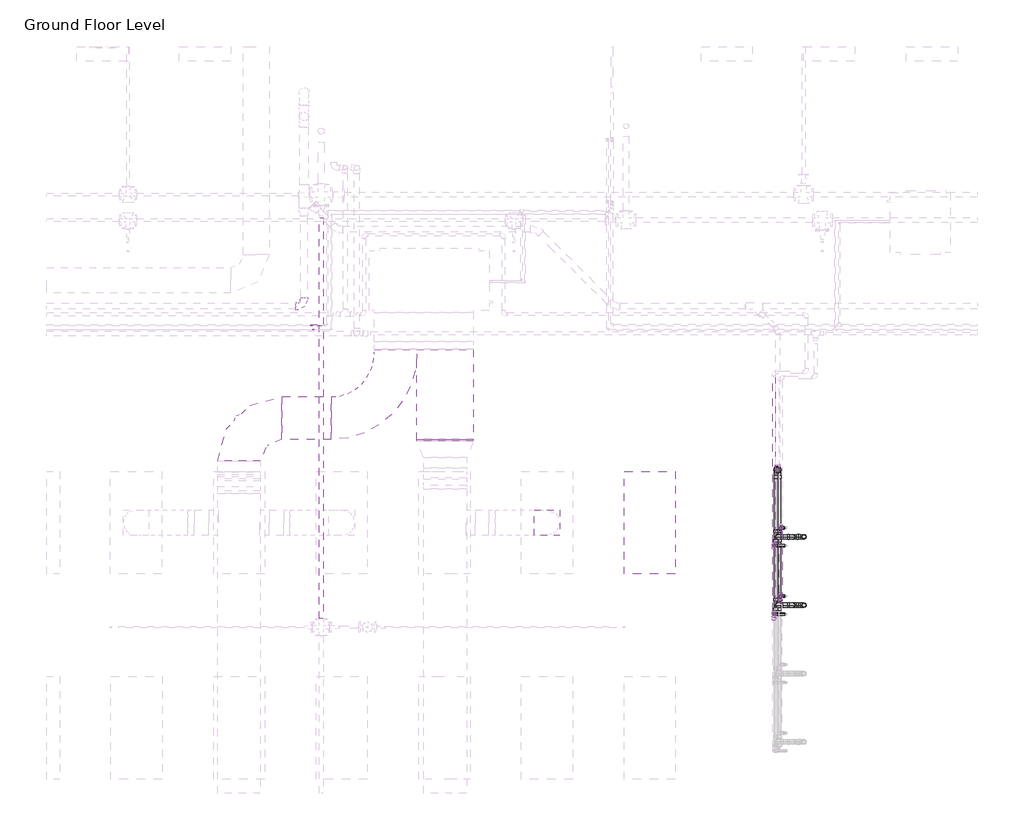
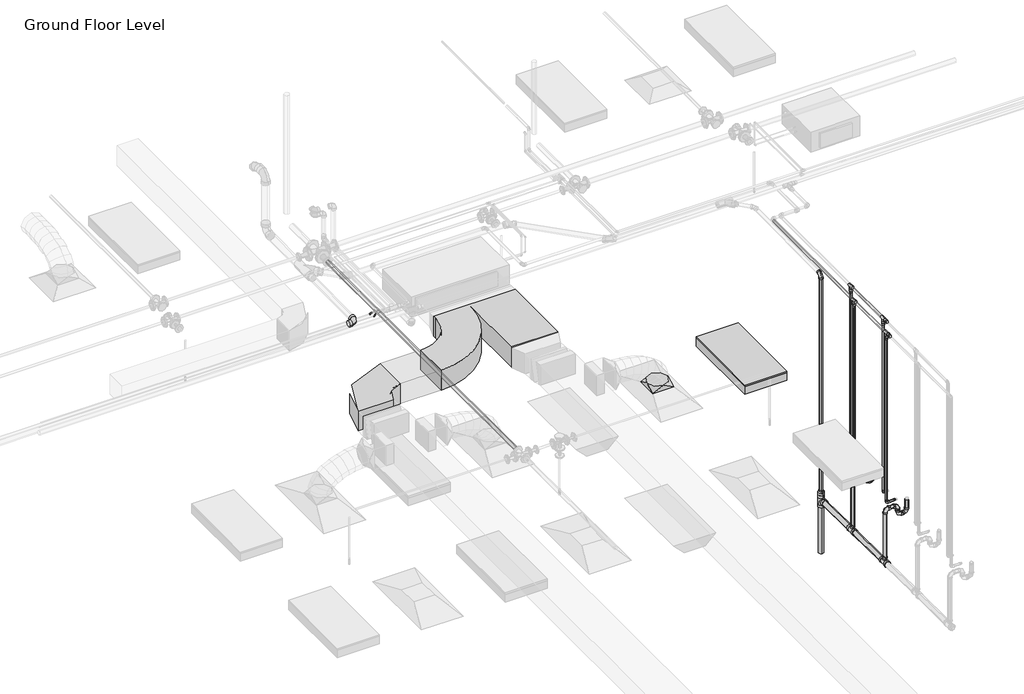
# One storey, part 51 of 73: 32 pipe fittings, 30 pipe segments, 3 duct fittings, 2 duct segments, 1 light fixture.
"""IFC4 building model written with IfcOpenShell, lengths in millimetres."""

from ifc_helpers import new_model, si_unit, point, frame, frame_2d, origin, place, context, project, spatial, polyline, circle_curve, trimmed, segment, composite_curve, outline, extrude, transform, mapped, element, save
from components import m_rectangular_elbow_radius_1_w_abe20169, m_rectangular_wye_smooth_radius_standard_737174da, m_rectangular_to_round_transition_angle_45_degree_641efff0, m_troffer_light_parabolic_rectangular1_0600x1200mm_4_lamp_86473d4a, m_bend_pvc_sch_40_dwv_standard_1e7bdcc1, m_bend_pvc_sch_40_dwv_standard_738aab8b, m_bend_pvc_sch_40_dwv_standard_33e831c1, m_elbow_generic_standard_2a704253, m_elbow_generic_standard_65e6739a, m_reducer_pvc_sch_40_dwv_standard_d6f2da47, m_tee_reducing_sanitary_pvc_sch_40_dwv_standard_21d2848c, m_tee_reducing_sanitary_pvc_sch_40_dwv_standard_b574f8c1, standard_b266ab3f, standard_72b35c3b, standard_e954f56a, standard_e5aa6446

model = new_model("IFC4")

# Units and contexts
model_context = context("Model", 3, world=origin())
ifc_project = project(units=[si_unit("LENGTHUNIT", "METRE", prefix="MILLI")], contexts=[model_context])

# Site, building, storey
site = spatial("IfcSite", under=ifc_project)
building = spatial("IfcBuilding", under=site)
storey = spatial("IfcBuildingStorey", under=building, Name="Ground Floor Level", Elevation=900.0)

# Duct fittings
placement = place(None, origin())
m_rectangular_elbow_radius_1_w_shape = m_rectangular_elbow_radius_1_w_abe20169(model_context)
element("IfcDuctFitting", 1, ObjectType="M_Rectangular Elbow - Radius : 1 W", at=placement, inside=storey, context=model_context, shape_type="MappedRepresentation", body=[
    mapped(m_rectangular_elbow_radius_1_w_shape, transform((-6939.6912607, 12459.4153535, 4107.1399598), x_axis=(-0.9999999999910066, 0.0, 4.2410714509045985e-06), y_axis=(0.0, -1.0, 0.0), z_axis=(4.2410714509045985e-06, 0.0, 0.9999999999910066))),
])
m_rectangular_wye_smooth_radius_standard_shape = m_rectangular_wye_smooth_radius_standard_737174da(model_context)
element("IfcDuctFitting", 2, ObjectType="M_Rectangular Wye - Smooth Radius : Standard", at=placement, inside=storey, context=model_context, shape_type="MappedRepresentation", body=[
    mapped(m_rectangular_wye_smooth_radius_standard_shape, transform((-4653.6910789, 12459.4153535, 4107.1353795), x_axis=(0.0, -0.9999999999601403, -8.928571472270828e-06), y_axis=(1.0, 0.0, 0.0), z_axis=(0.0, -8.928571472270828e-06, 0.9999999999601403))),
])
m_rectangular_to_round_transition_angle_45_degree_shape = m_rectangular_to_round_transition_angle_45_degree_641efff0(model_context)
element("IfcDuctFitting", 3, ObjectType="M_Rectangular to Round Transition - Angle : 45 Degree", at=placement, inside=storey, context=model_context, shape_type="MappedRepresentation", body=[
    mapped(m_rectangular_to_round_transition_angle_45_degree_shape, transform((-3337.2327605, 11235.2153534, 3751.6), x_axis=(0.0, 0.0, 1.0), y_axis=(-1.0, 0.0, 0.0), z_axis=(0.0, -1.0, 0.0))),
])

# Duct segments
element("IfcDuctSegment", 4, ObjectType="Radius Elbows / Taps", at=placement, inside=storey, context=model_context, shape_type="SweptSolid", body=[
    extrude(outline(polyline([(-4859.6910789, 12209.4153535), (-4197.6910789, 12209.4153535), (-4197.6910789, 12192.414605), (-4859.6910789, 12192.414605), (-4859.6910789, 12209.4153535)])), frame((0.0, 0.0, 3957.1331473), z_axis=(0.0, 0.0, 1.0), x_axis=(1.0, 0.0, 0.0)), (0.0, 0.0, 1.0), 300.0),
])
element("IfcDuctSegment", 5, ObjectType="Radius Elbows / Taps", at=placement, inside=storey, context=model_context, shape_type="SweptSolid", body=[
    extrude(outline(polyline([(-5859.6910789, 12709.4153535), (-5859.6910789, 12209.4153535), (-6439.6912607, 12209.4153535), (-6439.6912607, 12709.4153535), (-5859.6910789, 12709.4153535)])), frame((0.0, 0.0, 3957.1353795), z_axis=(0.0, 0.0, 1.0), x_axis=(1.0, 0.0, 0.0)), (0.0, 0.0, 1.0), 300.0),
])

# Light fixture
m_troffer_light_parabolic_rectangular1_0600x1200mm_4_lamp_shape = m_troffer_light_parabolic_rectangular1_0600x1200mm_4_lamp_86473d4a(model_context)
element("IfcLightFixture", 6, ObjectType="M_Troffer Light - Parabolic Rectangular1 : 0600x1200mm(4 Lamp) - 277V 2", at=placement, inside=storey, context=model_context, shape_type="MappedRepresentation", body=[
    mapped(m_troffer_light_parabolic_rectangular1_0600x1200mm_4_lamp_shape, transform((-2196.6986926, 11253.918855, 3650.0), x_axis=(0.0, 1.0, 0.0), y_axis=(-1.0, 0.0, 0.0), z_axis=(0.0, 0.0, 1.0))),
])

# Pipe fittings
m_bend_pvc_sch_40_dwv_standard_shape = m_bend_pvc_sch_40_dwv_standard_1e7bdcc1(model_context)
element("IfcPipeFitting", 7, ObjectType="M_Bend - PVC - Sch 40 - DWV : Standard", at=placement, inside=storey, context=model_context, shape_type="MappedRepresentation", body=[
    mapped(m_bend_pvc_sch_40_dwv_standard_shape, transform((-642.2357232, 11855.5503966, 4093.773994), x_axis=(0.0, 0.0, 1.0), y_axis=(0.0, 1.0, 0.0), z_axis=(-1.0, 0.0, 0.0))),
])
m_bend_pvc_sch_40_dwv_standard_2_shape = m_bend_pvc_sch_40_dwv_standard_738aab8b(model_context)
element("IfcPipeFitting", 8, ObjectType="M_Bend - PVC - Sch 40 - DWV : Standard", at=placement, inside=storey, context=model_context, shape_type="MappedRepresentation", body=[
    mapped(m_bend_pvc_sch_40_dwv_standard_2_shape, transform((-463.6645494, 10271.1979139, 1370.0), x_axis=(-1.0, 0.0, 0.0), y_axis=(0.0, 0.0, 1.0), z_axis=(0.0, 1.0, 0.0))),
])
element("IfcPipeFitting", 9, ObjectType="M_Bend - PVC - Sch 40 - DWV : Standard", at=placement, inside=storey, context=model_context, shape_type="MappedRepresentation", body=[
    mapped(m_bend_pvc_sch_40_dwv_standard_2_shape, transform((-463.6645494, 10271.1979139, 1510.0), x_axis=(0.0, 0.0, 1.0), y_axis=(-1.0, 0.0, 0.0), z_axis=(0.0, -1.0, 0.0))),
])
element("IfcPipeFitting", 10, ObjectType="M_Bend - PVC - Sch 40 - DWV : Standard", at=placement, inside=storey, context=model_context, shape_type="MappedRepresentation", body=[
    mapped(m_bend_pvc_sch_40_dwv_standard_2_shape, transform((-463.6645494, 11071.1979139, 1370.0), x_axis=(-1.0, 0.0, 0.0), y_axis=(0.0, 0.0, 1.0), z_axis=(0.0, 1.0, 0.0))),
])
element("IfcPipeFitting", 11, ObjectType="M_Bend - PVC - Sch 40 - DWV : Standard", at=placement, inside=storey, context=model_context, shape_type="MappedRepresentation", body=[
    mapped(m_bend_pvc_sch_40_dwv_standard_2_shape, transform((-463.6645494, 11071.1979139, 1510.0), x_axis=(0.0, 0.0, 1.0), y_axis=(-1.0, 0.0, 0.0), z_axis=(0.0, -1.0, 0.0))),
])
element("IfcPipeFitting", 12, ObjectType="M_Bend - PVC - Sch 40 - DWV : Standard", at=placement, inside=storey, context=model_context, shape_type="MappedRepresentation", body=[
    mapped(m_bend_pvc_sch_40_dwv_standard_2_shape, transform((-333.6645494, 10271.1979139, 1370.0), x_axis=(1.0, 0.0, 0.0), y_axis=(0.0, 0.0, 1.0), z_axis=(0.0, -1.0, 0.0))),
])
element("IfcPipeFitting", 13, ObjectType="M_Bend - PVC - Sch 40 - DWV : Standard", at=placement, inside=storey, context=model_context, shape_type="MappedRepresentation", body=[
    mapped(m_bend_pvc_sch_40_dwv_standard_2_shape, transform((-333.6645494, 11071.1979139, 1370.0), x_axis=(1.0, 0.0, 0.0), y_axis=(0.0, 0.0, 1.0), z_axis=(0.0, -1.0, 0.0))),
])
element("IfcPipeFitting", 14, ObjectType="M_Bend - PVC - Sch 40 - DWV : Standard", at=placement, inside=storey, context=model_context, shape_type="MappedRepresentation", body=[
    mapped(m_bend_pvc_sch_40_dwv_standard_2_shape, transform((-642.2301761, 10271.1979139, 1510.0), x_axis=(-1.0, 0.0, 0.0), y_axis=(0.0, 0.0, -1.0), z_axis=(0.0, -1.0, 0.0))),
])
element("IfcPipeFitting", 15, ObjectType="M_Bend - PVC - Sch 40 - DWV : Standard", at=placement, inside=storey, context=model_context, shape_type="MappedRepresentation", body=[
    mapped(m_bend_pvc_sch_40_dwv_standard_2_shape, transform((-642.2301761, 11071.1979139, 1510.0), x_axis=(-1.0, 0.0, 0.0), y_axis=(0.0, 0.0, -1.0), z_axis=(0.0, -1.0, 0.0))),
])
m_bend_pvc_sch_40_dwv_standard_3_shape = m_bend_pvc_sch_40_dwv_standard_33e831c1(model_context)
element("IfcPipeFitting", 16, ObjectType="M_Bend - PVC - Sch 40 - DWV : Standard", at=placement, inside=storey, context=model_context, shape_type="MappedRepresentation", body=[
    mapped(m_bend_pvc_sch_40_dwv_standard_3_shape, transform((-6179.174125, 13768.8048932, 4156.9282537), x_axis=(0.9999500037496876, 0.0, 0.00999950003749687), y_axis=(-9.998500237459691e-05, 0.999950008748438, 0.009998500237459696), z_axis=(-0.009999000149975, -0.009999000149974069, 0.9999000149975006))),
])
m_elbow_generic_standard_shape = m_elbow_generic_standard_2a704253(model_context)
element("IfcPipeFitting", 17, ObjectType="M_Elbow - Generic : Standard", at=placement, inside=storey, context=model_context, shape_type="MappedRepresentation", body=[
    mapped(m_elbow_generic_standard_shape, transform((-6064.340603, 13494.0185138, 4393.0), x_axis=(-1.0, 0.0, 0.0), y_axis=(0.0, 0.0, -1.0), z_axis=(0.0, -1.0, 0.0))),
])
element("IfcPipeFitting", 18, ObjectType="M_Elbow - Generic : Standard", at=placement, inside=storey, context=model_context, shape_type="MappedRepresentation", body=[
    mapped(m_elbow_generic_standard_shape, transform((-6064.340603, 13494.0185138, 4365.0), x_axis=(0.0, 0.0, -1.0), y_axis=(-1.0, 0.0, 0.0), z_axis=(0.0, 1.0, 0.0))),
])
m_elbow_generic_standard_2_shape = m_elbow_generic_standard_65e6739a(model_context)
element("IfcPipeFitting", 19, ObjectType="M_Elbow - Generic : Standard", at=placement, inside=storey, context=model_context, shape_type="MappedRepresentation", body=[
    mapped(m_elbow_generic_standard_2_shape, transform((-6100.1387432, 13545.2153534, 4380.0), x_axis=(1.0, 0.0, 0.0), y_axis=(0.0, 0.0, 1.0), z_axis=(0.0, -1.0, 0.0))),
])
element("IfcPipeFitting", 20, ObjectType="M_Elbow - Generic : Standard", at=placement, inside=storey, context=model_context, shape_type="MappedRepresentation", body=[
    mapped(m_elbow_generic_standard_2_shape, transform((-6088.1387432, 13545.2153534, 4392.0), x_axis=(-1.0, 0.0, 0.0), y_axis=(0.0, 0.0, -1.0), z_axis=(0.0, -1.0, 0.0))),
])
m_reducer_pvc_sch_40_dwv_standard_shape = m_reducer_pvc_sch_40_dwv_standard_d6f2da47(model_context)
element("IfcPipeFitting", 21, ObjectType="M_Reducer - PVC - Sch 40 - DWV : Standard", at=placement, inside=storey, context=model_context, shape_type="MappedRepresentation", body=[
    mapped(m_reducer_pvc_sch_40_dwv_standard_shape, transform((-642.2301761, 11855.5442121, 776.9463422), x_axis=(0.0, 0.0, 1.0), y_axis=(0.0, 1.0, 0.0), z_axis=(-1.0, 0.0, 0.0))),
])
m_tee_reducing_sanitary_pvc_sch_40_dwv_standard_shape = m_tee_reducing_sanitary_pvc_sch_40_dwv_standard_21d2848c(model_context)
element("IfcPipeFitting", 22, ObjectType="M_Tee Reducing Sanitary - PVC - Sch 40 - DWV : Standard", at=placement, inside=storey, context=model_context, shape_type="MappedRepresentation", body=[
    mapped(m_tee_reducing_sanitary_pvc_sch_40_dwv_standard_shape, transform((-642.2301761, 10271.1979139, 711.098886), x_axis=(0.0, -0.9999500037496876, 0.009999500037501), y_axis=(0.0, -0.009999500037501, -0.9999500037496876), z_axis=(1.0, 0.0, 0.0))),
])
element("IfcPipeFitting", 23, ObjectType="M_Tee Reducing Sanitary - PVC - Sch 40 - DWV : Standard", at=placement, inside=storey, context=model_context, shape_type="MappedRepresentation", body=[
    mapped(m_tee_reducing_sanitary_pvc_sch_40_dwv_standard_shape, transform((-642.2301761, 11071.1979139, 703.098886), x_axis=(0.0, -0.9999500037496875, 0.00999950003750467), y_axis=(0.0, -0.00999950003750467, -0.9999500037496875), z_axis=(1.0, 0.0, 0.0))),
])
m_tee_reducing_sanitary_pvc_sch_40_dwv_standard_2_shape = m_tee_reducing_sanitary_pvc_sch_40_dwv_standard_b574f8c1(model_context)
element("IfcPipeFitting", 24, ObjectType="M_Tee Reducing Sanitary - PVC - Sch 40 - DWV : Standard", at=placement, inside=storey, context=model_context, shape_type="MappedRepresentation", body=[
    mapped(m_tee_reducing_sanitary_pvc_sch_40_dwv_standard_2_shape, transform((-642.2301761, 11855.5442121, 695.255423), x_axis=(0.0, 0.0, 1.0), y_axis=(0.0, 1.0, 0.0), z_axis=(-1.0, 0.0, 0.0))),
])
standard_shape = standard_b266ab3f(model_context)
element("IfcPipeFitting", 25, ObjectType="M_Elbow - CPVC - Sch 40 : Standard", at=placement, inside=storey, context=model_context, shape_type="MappedRepresentation", body=[
    mapped(standard_shape, transform((-607.2327605, 11175.5128345, 1690.0), x_axis=(-1.0, 0.0, 0.0), y_axis=(0.0, 0.0, 1.0), z_axis=(0.0, 1.0, 0.0))),
])
element("IfcPipeFitting", 26, ObjectType="M_Elbow - CPVC - Sch 40 : Standard", at=placement, inside=storey, context=model_context, shape_type="MappedRepresentation", body=[
    mapped(standard_shape, transform((-607.2327605, 10375.5128345, 1690.0), x_axis=(0.0, 0.0, -1.0), y_axis=(1.0, 0.0, 0.0), z_axis=(0.0, -1.0, 0.0))),
])
element("IfcPipeFitting", 27, ObjectType="M_Elbow - CPVC - Sch 40 : Standard", at=placement, inside=storey, context=model_context, shape_type="MappedRepresentation", body=[
    mapped(standard_shape, transform((-684.0671674, 10166.8829933, 1690.0), x_axis=(-1.0, 0.0, 0.0), y_axis=(0.0, 0.0, 1.0), z_axis=(0.0, 1.0, 0.0))),
])
element("IfcPipeFitting", 28, ObjectType="M_Elbow - CPVC - Sch 40 : Standard", at=placement, inside=storey, context=model_context, shape_type="MappedRepresentation", body=[
    mapped(standard_shape, transform((-684.0671674, 10966.8829933, 1690.0), x_axis=(-1.0, 0.0, 0.0), y_axis=(0.0, 0.0, 1.0), z_axis=(0.0, 1.0, 0.0))),
])
standard_2_shape = standard_72b35c3b(model_context)
element("IfcPipeFitting", 29, ObjectType="M_Tee - CPVC - Sch 40 : Standard", at=placement, inside=storey, context=model_context, shape_type="MappedRepresentation", body=[
    mapped(standard_2_shape, transform((-607.2327605, 11175.5128345, 4315.0), x_axis=(0.0, -1.0, 0.0), y_axis=(0.0, 0.0, 1.0), z_axis=(-1.0, 0.0, 0.0))),
])
element("IfcPipeFitting", 30, ObjectType="M_Tee - CPVC - Sch 40 : Standard", at=placement, inside=storey, context=model_context, shape_type="MappedRepresentation", body=[
    mapped(standard_2_shape, transform((-607.2327605, 10375.5128345, 4315.0), x_axis=(0.0, 1.0, 0.0), y_axis=(0.0, 0.0, 1.0), z_axis=(1.0, 0.0, 0.0))),
])
element("IfcPipeFitting", 31, ObjectType="M_Tee - CPVC - Sch 40 : Standard", at=placement, inside=storey, context=model_context, shape_type="MappedRepresentation", body=[
    mapped(standard_2_shape, transform((-684.0671674, 10166.8829933, 4250.0), x_axis=(0.0, -1.0, 0.0), y_axis=(0.0, 0.0, 1.0), z_axis=(-1.0, 0.0, 0.0))),
])
element("IfcPipeFitting", 32, ObjectType="M_Tee - CPVC - Sch 40 : Standard", at=placement, inside=storey, context=model_context, shape_type="MappedRepresentation", body=[
    mapped(standard_2_shape, transform((-684.0671674, 10966.8829933, 4250.0), x_axis=(0.0, -1.0, 0.0), y_axis=(0.0, 0.0, 1.0), z_axis=(-1.0, 0.0, 0.0))),
])
standard_3_shape = standard_e954f56a(model_context)
element("IfcPipeFitting", 33, ObjectType="M_Coupling Reducing - CPVC - Sch 40 : Standard", at=placement, inside=storey, context=model_context, shape_type="MappedRepresentation", body=[
    mapped(standard_3_shape, transform((-607.2327605, 10335.8126345, 4315.0), x_axis=(0.0, -1.0, 0.0), y_axis=(1.0, 0.0, 0.0), z_axis=(0.0, 0.0, 1.0))),
])
element("IfcPipeFitting", 34, ObjectType="M_Coupling Reducing - CPVC - Sch 40 : Standard", at=placement, inside=storey, context=model_context, shape_type="MappedRepresentation", body=[
    mapped(standard_3_shape, transform((-607.2327605, 10375.5128345, 4275.2998), x_axis=(0.0, 0.0, -1.0), y_axis=(0.0, -1.0, 0.0), z_axis=(-1.0, 0.0, 0.0))),
])
element("IfcPipeFitting", 35, ObjectType="M_Coupling Reducing - CPVC - Sch 40 : Standard", at=placement, inside=storey, context=model_context, shape_type="MappedRepresentation", body=[
    mapped(standard_3_shape, transform((-684.0671674, 10166.8829933, 4210.2998), x_axis=(0.0, 0.0, -1.0), y_axis=(-1.0, 0.0, 0.0), z_axis=(0.0, 1.0, 0.0))),
])
element("IfcPipeFitting", 36, ObjectType="M_Coupling Reducing - CPVC - Sch 40 : Standard", at=placement, inside=storey, context=model_context, shape_type="MappedRepresentation", body=[
    mapped(standard_3_shape, transform((-684.0671674, 10966.8829933, 4210.2998), x_axis=(0.0, 0.0, -1.0), y_axis=(-1.0, 0.0, 0.0), z_axis=(0.0, 1.0, 0.0))),
])
standard_4_shape = standard_e5aa6446(model_context)
element("IfcPipeFitting", 37, ObjectType="M_Coupling Reducing - CPVC - Sch 40 : Standard", at=placement, inside=storey, context=model_context, shape_type="MappedRepresentation", body=[
    mapped(standard_4_shape, transform((-607.2327605, 11175.5128345, 4275.2998), x_axis=(0.0, 0.0, -1.0), y_axis=(1.0, 0.0, 0.0), z_axis=(0.0, -1.0, 0.0))),
])
element("IfcPipeFitting", 38, ObjectType="M_Coupling Reducing - CPVC - Sch 40 : Standard", at=placement, inside=storey, context=model_context, shape_type="MappedRepresentation", body=[
    mapped(standard_4_shape, transform((-684.0671674, 10127.1827933, 4250.0), x_axis=(0.0, -1.0, 0.0), y_axis=(1.0, 0.0, 0.0), z_axis=(0.0, 0.0, 1.0))),
])

# Pipe segments
element("IfcPipeSegment", 39, ObjectType="CPVC", at=placement, inside=storey, context=model_context, shape_type="SweptSolid", body=[
    extrude(outline(composite_curve([segment(trimmed(circle_curve(frame_2d((11175.5128345, 1690.0)), 13.335), [point((11188.8478345, 1690.0))], [point((11175.5128345, 1676.665))], False, "CARTESIAN"), True, "CONTINUOUS"), segment(trimmed(circle_curve(frame_2d((11175.5128345, 1690.0)), 13.335), [point((11175.5128345, 1676.665))], [point((11162.1778345, 1690.0))], False, "CARTESIAN"), True, "CONTINUOUS"), segment(trimmed(circle_curve(frame_2d((11175.5128345, 1690.0)), 13.335), [point((11162.1778345, 1690.0))], [point((11175.5128345, 1703.335))], False, "CARTESIAN"), True, "CONTINUOUS"), segment(trimmed(circle_curve(frame_2d((11175.5128345, 1690.0)), 13.335), [point((11175.5128345, 1703.335))], [point((11188.8478345, 1690.0))], False, "CARTESIAN"), True, "CONTINUOUS")], self_intersect=False)), frame((-571.9077105, 0.0, 0.0), z_axis=(1.0, 0.0, 0.0), x_axis=(0.0, 1.0, 0.0)), (0.0, 0.0, 1.0), 14.67495),
])
element("IfcPipeSegment", 40, ObjectType="CPVC", at=placement, inside=storey, context=model_context, shape_type="SweptSolid", body=[
    extrude(outline(composite_curve([segment(trimmed(circle_curve(frame_2d((-607.2327605, 11175.5128345)), 13.335), [point((-620.5677605, 11175.5128345))], [point((-607.2327605, 11188.8478345))], False, "CARTESIAN"), True, "CONTINUOUS"), segment(trimmed(circle_curve(frame_2d((-607.2327605, 11175.5128345)), 13.335), [point((-607.2327605, 11188.8478345))], [point((-593.8977605, 11175.5128345))], False, "CARTESIAN"), True, "CONTINUOUS"), segment(trimmed(circle_curve(frame_2d((-607.2327605, 11175.5128345)), 13.335), [point((-593.8977605, 11175.5128345))], [point((-607.2327605, 11162.1778345))], False, "CARTESIAN"), True, "CONTINUOUS"), segment(trimmed(circle_curve(frame_2d((-607.2327605, 11175.5128345)), 13.335), [point((-607.2327605, 11162.1778345))], [point((-620.5677605, 11175.5128345))], False, "CARTESIAN"), True, "CONTINUOUS")], self_intersect=False)), frame((0.0, 0.0, 1725.32505), z_axis=(0.0, 0.0, 1.0), x_axis=(1.0, 0.0, 0.0)), (0.0, 0.0, 1.0), 2492.82475),
])
element("IfcPipeSegment", 41, ObjectType="CPVC", at=placement, inside=storey, context=model_context, shape_type="SweptSolid", body=[
    extrude(outline(composite_curve([segment(trimmed(circle_curve(frame_2d((10375.5128345, 1690.0)), 13.335), [point((10362.1778345, 1690.0))], [point((10375.5128345, 1703.335))], False, "CARTESIAN"), True, "CONTINUOUS"), segment(trimmed(circle_curve(frame_2d((10375.5128345, 1690.0)), 13.335), [point((10375.5128345, 1703.335))], [point((10388.8478345, 1690.0))], False, "CARTESIAN"), True, "CONTINUOUS"), segment(trimmed(circle_curve(frame_2d((10375.5128345, 1690.0)), 13.335), [point((10388.8478345, 1690.0))], [point((10375.5128345, 1676.665))], False, "CARTESIAN"), True, "CONTINUOUS"), segment(trimmed(circle_curve(frame_2d((10375.5128345, 1690.0)), 13.335), [point((10375.5128345, 1676.665))], [point((10362.1778345, 1690.0))], False, "CARTESIAN"), True, "CONTINUOUS")], self_intersect=False)), frame((-571.9077105, 0.0, 0.0), z_axis=(1.0, 0.0, 0.0), x_axis=(0.0, 1.0, 0.0)), (0.0, 0.0, 1.0), 14.67495),
])
element("IfcPipeSegment", 42, ObjectType="CPVC", at=placement, inside=storey, context=model_context, shape_type="SweptSolid", body=[
    extrude(outline(composite_curve([segment(trimmed(circle_curve(frame_2d((-607.2327605, 10375.5128345)), 13.335), [point((-593.8977605, 10375.5128345))], [point((-607.2327605, 10362.1778345))], False, "CARTESIAN"), True, "CONTINUOUS"), segment(trimmed(circle_curve(frame_2d((-607.2327605, 10375.5128345)), 13.335), [point((-607.2327605, 10362.1778345))], [point((-620.5677605, 10375.5128345))], False, "CARTESIAN"), True, "CONTINUOUS"), segment(trimmed(circle_curve(frame_2d((-607.2327605, 10375.5128345)), 13.335), [point((-620.5677605, 10375.5128345))], [point((-607.2327605, 10388.8478345))], False, "CARTESIAN"), True, "CONTINUOUS"), segment(trimmed(circle_curve(frame_2d((-607.2327605, 10375.5128345)), 13.335), [point((-607.2327605, 10388.8478345))], [point((-593.8977605, 10375.5128345))], False, "CARTESIAN"), True, "CONTINUOUS")], self_intersect=False)), frame((0.0, 0.0, 1725.32505), z_axis=(0.0, 0.0, 1.0), x_axis=(1.0, 0.0, 0.0)), (0.0, 0.0, 1.0), 2492.82475),
])
element("IfcPipeSegment", 43, ObjectType="CPVC", at=placement, inside=storey, context=model_context, shape_type="SweptSolid", body=[
    extrude(outline(composite_curve([segment(trimmed(circle_curve(frame_2d((4315.0, -607.2327605)), 16.7005), [point((4315.0, -623.9332605))], [point((4298.2995, -607.2327605))], False, "CARTESIAN"), True, "CONTINUOUS"), segment(trimmed(circle_curve(frame_2d((4315.0, -607.2327605)), 16.7005), [point((4298.2995, -607.2327605))], [point((4315.0, -590.5322605))], False, "CARTESIAN"), True, "CONTINUOUS"), segment(trimmed(circle_curve(frame_2d((4315.0, -607.2327605)), 16.7005), [point((4315.0, -590.5322605))], [point((4331.7005, -607.2327605))], False, "CARTESIAN"), True, "CONTINUOUS"), segment(trimmed(circle_curve(frame_2d((4315.0, -607.2327605)), 16.7005), [point((4331.7005, -607.2327605))], [point((4315.0, -623.9332605))], False, "CARTESIAN"), True, "CONTINUOUS")], self_intersect=False)), frame((0.0, 10415.2130345, 0.0), z_axis=(0.0, 1.0, 0.0), x_axis=(0.0, 0.0, 1.0)), (0.0, 0.0, 1.0), 720.5996),
])
element("IfcPipeSegment", 44, ObjectType="CPVC", at=placement, inside=storey, context=model_context, shape_type="SweptSolid", body=[
    extrude(outline(composite_curve([segment(trimmed(circle_curve(frame_2d((10166.8829933, 1690.0)), 13.335), [point((10180.2179933, 1690.0))], [point((10166.8829933, 1676.665))], False, "CARTESIAN"), True, "CONTINUOUS"), segment(trimmed(circle_curve(frame_2d((10166.8829933, 1690.0)), 13.335), [point((10166.8829933, 1676.665))], [point((10153.5479933, 1690.0))], False, "CARTESIAN"), True, "CONTINUOUS"), segment(trimmed(circle_curve(frame_2d((10166.8829933, 1690.0)), 13.335), [point((10153.5479933, 1690.0))], [point((10166.8829933, 1703.335))], False, "CARTESIAN"), True, "CONTINUOUS"), segment(trimmed(circle_curve(frame_2d((10166.8829933, 1690.0)), 13.335), [point((10166.8829933, 1703.335))], [point((10180.2179933, 1690.0))], False, "CARTESIAN"), True, "CONTINUOUS")], self_intersect=False)), frame((-648.7421174, 0.0, 0.0), z_axis=(1.0, 0.0, 0.0), x_axis=(0.0, 1.0, 0.0)), (0.0, 0.0, 1.0), 91.5093569),
])
element("IfcPipeSegment", 45, ObjectType="CPVC", at=placement, inside=storey, context=model_context, shape_type="SweptSolid", body=[
    extrude(outline(composite_curve([segment(trimmed(circle_curve(frame_2d((-684.0671674, 10166.8829933)), 13.335), [point((-697.4021674, 10166.8829933))], [point((-684.0671674, 10180.2179933))], False, "CARTESIAN"), True, "CONTINUOUS"), segment(trimmed(circle_curve(frame_2d((-684.0671674, 10166.8829933)), 13.335), [point((-684.0671674, 10180.2179933))], [point((-670.7321674, 10166.8829933))], False, "CARTESIAN"), True, "CONTINUOUS"), segment(trimmed(circle_curve(frame_2d((-684.0671674, 10166.8829933)), 13.335), [point((-670.7321674, 10166.8829933))], [point((-684.0671674, 10153.5479933))], False, "CARTESIAN"), True, "CONTINUOUS"), segment(trimmed(circle_curve(frame_2d((-684.0671674, 10166.8829933)), 13.335), [point((-684.0671674, 10153.5479933))], [point((-697.4021674, 10166.8829933))], False, "CARTESIAN"), True, "CONTINUOUS")], self_intersect=False)), frame((0.0, 0.0, 1725.32505), z_axis=(0.0, 0.0, 1.0), x_axis=(1.0, 0.0, 0.0)), (0.0, 0.0, 1.0), 2427.82475),
])
element("IfcPipeSegment", 46, ObjectType="CPVC", at=placement, inside=storey, context=model_context, shape_type="SweptSolid", body=[
    extrude(outline(composite_curve([segment(trimmed(circle_curve(frame_2d((10966.8829933, 1690.0)), 13.335), [point((10980.2179933, 1690.0))], [point((10966.8829933, 1676.665))], False, "CARTESIAN"), True, "CONTINUOUS"), segment(trimmed(circle_curve(frame_2d((10966.8829933, 1690.0)), 13.335), [point((10966.8829933, 1676.665))], [point((10953.5479933, 1690.0))], False, "CARTESIAN"), True, "CONTINUOUS"), segment(trimmed(circle_curve(frame_2d((10966.8829933, 1690.0)), 13.335), [point((10953.5479933, 1690.0))], [point((10966.8829933, 1703.335))], False, "CARTESIAN"), True, "CONTINUOUS"), segment(trimmed(circle_curve(frame_2d((10966.8829933, 1690.0)), 13.335), [point((10966.8829933, 1703.335))], [point((10980.2179933, 1690.0))], False, "CARTESIAN"), True, "CONTINUOUS")], self_intersect=False)), frame((-648.7421174, 0.0, 0.0), z_axis=(1.0, 0.0, 0.0), x_axis=(0.0, 1.0, 0.0)), (0.0, 0.0, 1.0), 91.5093569),
])
element("IfcPipeSegment", 47, ObjectType="CPVC", at=placement, inside=storey, context=model_context, shape_type="SweptSolid", body=[
    extrude(outline(composite_curve([segment(trimmed(circle_curve(frame_2d((-684.0671674, 10966.8829933)), 13.335), [point((-697.4021674, 10966.8829933))], [point((-684.0671674, 10980.2179933))], False, "CARTESIAN"), True, "CONTINUOUS"), segment(trimmed(circle_curve(frame_2d((-684.0671674, 10966.8829933)), 13.335), [point((-684.0671674, 10980.2179933))], [point((-670.7321674, 10966.8829933))], False, "CARTESIAN"), True, "CONTINUOUS"), segment(trimmed(circle_curve(frame_2d((-684.0671674, 10966.8829933)), 13.335), [point((-670.7321674, 10966.8829933))], [point((-684.0671674, 10953.5479933))], False, "CARTESIAN"), True, "CONTINUOUS"), segment(trimmed(circle_curve(frame_2d((-684.0671674, 10966.8829933)), 13.335), [point((-684.0671674, 10953.5479933))], [point((-697.4021674, 10966.8829933))], False, "CARTESIAN"), True, "CONTINUOUS")], self_intersect=False)), frame((0.0, 0.0, 1725.32505), z_axis=(0.0, 0.0, 1.0), x_axis=(1.0, 0.0, 0.0)), (0.0, 0.0, 1.0), 2427.82475),
])
element("IfcPipeSegment", 48, ObjectType="CPVC", at=placement, inside=storey, context=model_context, shape_type="SweptSolid", body=[
    extrude(outline(composite_curve([segment(trimmed(circle_curve(frame_2d((4250.0, -684.0671674)), 16.7005), [point((4250.0, -667.3666674))], [point((4266.7005, -684.0671674))], False, "CARTESIAN"), True, "CONTINUOUS"), segment(trimmed(circle_curve(frame_2d((4250.0, -684.0671674)), 16.7005), [point((4266.7005, -684.0671674))], [point((4250.0, -700.7676674))], False, "CARTESIAN"), True, "CONTINUOUS"), segment(trimmed(circle_curve(frame_2d((4250.0, -684.0671674)), 16.7005), [point((4250.0, -700.7676674))], [point((4233.2995, -684.0671674))], False, "CARTESIAN"), True, "CONTINUOUS"), segment(trimmed(circle_curve(frame_2d((4250.0, -684.0671674)), 16.7005), [point((4233.2995, -684.0671674))], [point((4250.0, -667.3666674))], False, "CARTESIAN"), True, "CONTINUOUS")], self_intersect=False)), frame((0.0, 11006.5831933, 0.0), z_axis=(0.0, 1.0, 0.0), x_axis=(0.0, 0.0, 1.0)), (0.0, 0.0, 1.0), 1945.3696101),
])
element("IfcPipeSegment", 49, ObjectType="CPVC", at=placement, inside=storey, context=model_context, shape_type="SweptSolid", body=[
    extrude(outline(composite_curve([segment(trimmed(circle_curve(frame_2d((4250.0, -684.0671674)), 16.7005), [point((4250.0, -667.3666674))], [point((4266.7005, -684.0671674))], False, "CARTESIAN"), True, "CONTINUOUS"), segment(trimmed(circle_curve(frame_2d((4250.0, -684.0671674)), 16.7005), [point((4266.7005, -684.0671674))], [point((4250.0, -700.7676674))], False, "CARTESIAN"), True, "CONTINUOUS"), segment(trimmed(circle_curve(frame_2d((4250.0, -684.0671674)), 16.7005), [point((4250.0, -700.7676674))], [point((4233.2995, -684.0671674))], False, "CARTESIAN"), True, "CONTINUOUS"), segment(trimmed(circle_curve(frame_2d((4250.0, -684.0671674)), 16.7005), [point((4233.2995, -684.0671674))], [point((4250.0, -667.3666674))], False, "CARTESIAN"), True, "CONTINUOUS")], self_intersect=False)), frame((0.0, 10206.5831933, 0.0), z_axis=(0.0, 1.0, 0.0), x_axis=(0.0, 0.0, 1.0)), (0.0, 0.0, 1.0), 720.5996),
])
element("IfcPipeSegment", 50, ObjectType="Copper", at=placement, inside=storey, context=model_context, shape_type="SweptSolid", body=[
    extrude(outline(composite_curve([segment(trimmed(circle_curve(frame_2d((13545.2153534, 4392.0)), 6.5), [point((13538.7153534, 4392.0))], [point((13545.2153534, 4398.5))], False, "CARTESIAN"), True, "CONTINUOUS"), segment(trimmed(circle_curve(frame_2d((13545.2153534, 4392.0)), 6.5), [point((13545.2153534, 4398.5))], [point((13551.7153534, 4392.0))], False, "CARTESIAN"), True, "CONTINUOUS"), segment(trimmed(circle_curve(frame_2d((13545.2153534, 4392.0)), 6.5), [point((13551.7153534, 4392.0))], [point((13545.2153534, 4385.5))], False, "CARTESIAN"), True, "CONTINUOUS"), segment(trimmed(circle_curve(frame_2d((13545.2153534, 4392.0)), 6.5), [point((13545.2153534, 4385.5))], [point((13538.7153534, 4392.0))], False, "CARTESIAN"), True, "CONTINUOUS")], self_intersect=False)), frame((-6082.220667, 0.0, 0.0), z_axis=(1.0, 0.0, 0.0), x_axis=(0.0, 1.0, 0.0)), (0.0, 0.0, 1.0), 114.8979305),
])
element("IfcPipeSegment", 51, ObjectType="Copper", at=placement, inside=storey, context=model_context, shape_type="SweptSolid", body=[
    extrude(outline(composite_curve([segment(trimmed(circle_curve(frame_2d((-6064.340603, 13494.0185138)), 3.35), [point((-6060.990603, 13494.0185138))], [point((-6064.340603, 13490.6685138))], False, "CARTESIAN"), True, "CONTINUOUS"), segment(trimmed(circle_curve(frame_2d((-6064.340603, 13494.0185138)), 3.35), [point((-6064.340603, 13490.6685138))], [point((-6067.690603, 13494.0185138))], False, "CARTESIAN"), True, "CONTINUOUS"), segment(trimmed(circle_curve(frame_2d((-6064.340603, 13494.0185138)), 3.35), [point((-6067.690603, 13494.0185138))], [point((-6064.340603, 13497.3685138))], False, "CARTESIAN"), True, "CONTINUOUS"), segment(trimmed(circle_curve(frame_2d((-6064.340603, 13494.0185138)), 3.35), [point((-6064.340603, 13497.3685138))], [point((-6060.990603, 13494.0185138))], False, "CARTESIAN"), True, "CONTINUOUS")], self_intersect=False)), frame((0.0, 0.0, 4376.1375), z_axis=(0.0, 0.0, 1.0), x_axis=(1.0, 0.0, 0.0)), (0.0, 0.0, 1.0), 5.725),
])
element("IfcPipeSegment", 52, ObjectType="Copper", at=placement, inside=storey, context=model_context, shape_type="SweptSolid", body=[
    extrude(outline(composite_curve([segment(trimmed(circle_curve(frame_2d((0.0, 6.5)), 6.5), [point((0.0, 0.0))], [point((-6.5, 6.5))], False, "CARTESIAN"), True, "CONTINUOUS"), segment(trimmed(circle_curve(frame_2d((0.0, 6.5)), 6.5), [point((-6.5, 6.5))], [point((0.0, 13.0))], False, "CARTESIAN"), True, "CONTINUOUS"), segment(trimmed(circle_curve(frame_2d((0.0, 6.5)), 6.5), [point((0.0, 13.0))], [point((6.5, 6.5))], False, "CARTESIAN"), True, "CONTINUOUS"), segment(trimmed(circle_curve(frame_2d((0.0, 6.5)), 6.5), [point((6.5, 6.5))], [point((0.0, 0.0))], False, "CARTESIAN"), True, "CONTINUOUS")], self_intersect=False)), frame((-6095.9540314, 13538.7153534, 4384.1847119), z_axis=(0.7071067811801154, 0.0, 0.7071067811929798), x_axis=(0.7071067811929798, 0.0, -0.7071067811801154)), (0.0, 0.0, 1.0), 5.1344102),
])
element("IfcPipeSegment", 53, ObjectType="PVC - DWV", at=placement, inside=storey, context=model_context, shape_type="SweptSolid", body=[
    extrude(outline(composite_curve([segment(trimmed(circle_curve(frame_2d((0.0, -36.5125)), 36.5125), [point((36.5125, -36.5125))], [point((0.0, -73.025))], False, "CARTESIAN"), True, "CONTINUOUS"), segment(trimmed(circle_curve(frame_2d((0.0, -36.5125)), 36.5125), [point((0.0, -73.025))], [point((-36.5125, -36.5125))], False, "CARTESIAN"), True, "CONTINUOUS"), segment(trimmed(circle_curve(frame_2d((0.0, -36.5125)), 36.5125), [point((-36.5125, -36.5125))], [point((0.0, 0.0))], False, "CARTESIAN"), True, "CONTINUOUS"), segment(trimmed(circle_curve(frame_2d((0.0, -36.5125)), 36.5125), [point((0.0, 0.0))], [point((36.5125, -36.5125))], False, "CARTESIAN"), True, "CONTINUOUS")], self_intersect=False)), frame((-642.2301761, 11755.9463482, 732.7657272), z_axis=(0.0, -0.9999500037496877, 0.009999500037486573), x_axis=(1.0, 0.0, 0.0)), (0.0, 0.0, 1.0), 605.3544271),
])
element("IfcPipeSegment", 54, ObjectType="PVC - DWV", at=placement, inside=storey, context=model_context, shape_type="SweptSolid", body=[
    extrude(outline(composite_curve([segment(trimmed(circle_curve(frame_2d((-333.6645494, 10271.1979139)), 24.13), [point((-357.7945494, 10271.1979139))], [point((-333.6645494, 10295.3279139))], False, "CARTESIAN"), True, "CONTINUOUS"), segment(trimmed(circle_curve(frame_2d((-333.6645494, 10271.1979139)), 24.13), [point((-333.6645494, 10295.3279139))], [point((-309.5345494, 10271.1979139))], False, "CARTESIAN"), True, "CONTINUOUS"), segment(trimmed(circle_curve(frame_2d((-333.6645494, 10271.1979139)), 24.13), [point((-309.5345494, 10271.1979139))], [point((-333.6645494, 10247.0679139))], False, "CARTESIAN"), True, "CONTINUOUS"), segment(trimmed(circle_curve(frame_2d((-333.6645494, 10271.1979139)), 24.13), [point((-333.6645494, 10247.0679139))], [point((-357.7945494, 10271.1979139))], False, "CARTESIAN"), True, "CONTINUOUS")], self_intersect=False)), frame((0.0, 0.0, 1431.8998), z_axis=(0.0, 0.0, 1.0), x_axis=(1.0, 0.0, 0.0)), (0.0, 0.0, 1.0), 118.1002),
])
element("IfcPipeSegment", 55, ObjectType="PVC - DWV", at=placement, inside=storey, context=model_context, shape_type="SweptSolid", body=[
    extrude(outline(composite_curve([segment(trimmed(circle_curve(frame_2d((10271.1979139, 1370.0)), 24.13), [point((10295.3279139, 1370.0))], [point((10271.1979139, 1345.87))], False, "CARTESIAN"), True, "CONTINUOUS"), segment(trimmed(circle_curve(frame_2d((10271.1979139, 1370.0)), 24.13), [point((10271.1979139, 1345.87))], [point((10247.0679139, 1370.0))], False, "CARTESIAN"), True, "CONTINUOUS"), segment(trimmed(circle_curve(frame_2d((10271.1979139, 1370.0)), 24.13), [point((10247.0679139, 1370.0))], [point((10271.1979139, 1394.13))], False, "CARTESIAN"), True, "CONTINUOUS"), segment(trimmed(circle_curve(frame_2d((10271.1979139, 1370.0)), 24.13), [point((10271.1979139, 1394.13))], [point((10295.3279139, 1370.0))], False, "CARTESIAN"), True, "CONTINUOUS")], self_intersect=False)), frame((-401.7647494, 0.0, 0.0), z_axis=(1.0, 0.0, 0.0), x_axis=(0.0, 1.0, 0.0)), (0.0, 0.0, 1.0), 6.2004),
])
element("IfcPipeSegment", 56, ObjectType="PVC - DWV", at=placement, inside=storey, context=model_context, shape_type="SweptSolid", body=[
    extrude(outline(composite_curve([segment(trimmed(circle_curve(frame_2d((-463.6645494, 10271.1979139)), 24.13), [point((-487.7945494, 10271.1979139))], [point((-463.6645494, 10295.3279139))], False, "CARTESIAN"), True, "CONTINUOUS"), segment(trimmed(circle_curve(frame_2d((-463.6645494, 10271.1979139)), 24.13), [point((-463.6645494, 10295.3279139))], [point((-439.5345494, 10271.1979139))], False, "CARTESIAN"), True, "CONTINUOUS"), segment(trimmed(circle_curve(frame_2d((-463.6645494, 10271.1979139)), 24.13), [point((-439.5345494, 10271.1979139))], [point((-463.6645494, 10247.0679139))], False, "CARTESIAN"), True, "CONTINUOUS"), segment(trimmed(circle_curve(frame_2d((-463.6645494, 10271.1979139)), 24.13), [point((-463.6645494, 10247.0679139))], [point((-487.7945494, 10271.1979139))], False, "CARTESIAN"), True, "CONTINUOUS")], self_intersect=False)), frame((0.0, 0.0, 1431.8998), z_axis=(0.0, 0.0, 1.0), x_axis=(1.0, 0.0, 0.0)), (0.0, 0.0, 1.0), 16.2004),
])
element("IfcPipeSegment", 57, ObjectType="PVC - DWV", at=placement, inside=storey, context=model_context, shape_type="SweptSolid", body=[
    extrude(outline(composite_curve([segment(trimmed(circle_curve(frame_2d((10271.1979139, 1510.0)), 24.13), [point((10295.3279139, 1510.0))], [point((10271.1979139, 1485.87))], False, "CARTESIAN"), True, "CONTINUOUS"), segment(trimmed(circle_curve(frame_2d((10271.1979139, 1510.0)), 24.13), [point((10271.1979139, 1485.87))], [point((10247.0679139, 1510.0))], False, "CARTESIAN"), True, "CONTINUOUS"), segment(trimmed(circle_curve(frame_2d((10271.1979139, 1510.0)), 24.13), [point((10247.0679139, 1510.0))], [point((10271.1979139, 1534.13))], False, "CARTESIAN"), True, "CONTINUOUS"), segment(trimmed(circle_curve(frame_2d((10271.1979139, 1510.0)), 24.13), [point((10271.1979139, 1534.13))], [point((10295.3279139, 1510.0))], False, "CARTESIAN"), True, "CONTINUOUS")], self_intersect=False)), frame((-580.3303761, 0.0, 0.0), z_axis=(1.0, 0.0, 0.0), x_axis=(0.0, 1.0, 0.0)), (0.0, 0.0, 1.0), 54.7660268),
])
element("IfcPipeSegment", 58, ObjectType="PVC - DWV", at=placement, inside=storey, context=model_context, shape_type="SweptSolid", body=[
    extrude(outline(composite_curve([segment(trimmed(circle_curve(frame_2d((-642.2301761, 10271.1979139)), 24.13), [point((-666.3601761, 10271.1979139))], [point((-642.2301761, 10295.3279139))], False, "CARTESIAN"), True, "CONTINUOUS"), segment(trimmed(circle_curve(frame_2d((-642.2301761, 10271.1979139)), 24.13), [point((-642.2301761, 10295.3279139))], [point((-618.1001761, 10271.1979139))], False, "CARTESIAN"), True, "CONTINUOUS"), segment(trimmed(circle_curve(frame_2d((-642.2301761, 10271.1979139)), 24.13), [point((-618.1001761, 10271.1979139))], [point((-642.2301761, 10247.0679139))], False, "CARTESIAN"), True, "CONTINUOUS"), segment(trimmed(circle_curve(frame_2d((-642.2301761, 10271.1979139)), 24.13), [point((-642.2301761, 10247.0679139))], [point((-666.3601761, 10271.1979139))], False, "CARTESIAN"), True, "CONTINUOUS")], self_intersect=False)), frame((0.0, 0.0, 791.9463422), z_axis=(0.0, 0.0, 1.0), x_axis=(1.0, 0.0, 0.0)), (0.0, 0.0, 1.0), 656.1538578),
])
element("IfcPipeSegment", 59, ObjectType="PVC - DWV", at=placement, inside=storey, context=model_context, shape_type="SweptSolid", body=[
    extrude(outline(composite_curve([segment(trimmed(circle_curve(frame_2d((-333.6645494, 11071.1979139)), 24.13), [point((-309.5345494, 11071.1979139))], [point((-333.6645494, 11047.0679139))], False, "CARTESIAN"), True, "CONTINUOUS"), segment(trimmed(circle_curve(frame_2d((-333.6645494, 11071.1979139)), 24.13), [point((-333.6645494, 11047.0679139))], [point((-357.7945494, 11071.1979139))], False, "CARTESIAN"), True, "CONTINUOUS"), segment(trimmed(circle_curve(frame_2d((-333.6645494, 11071.1979139)), 24.13), [point((-357.7945494, 11071.1979139))], [point((-333.6645494, 11095.3279139))], False, "CARTESIAN"), True, "CONTINUOUS"), segment(trimmed(circle_curve(frame_2d((-333.6645494, 11071.1979139)), 24.13), [point((-333.6645494, 11095.3279139))], [point((-309.5345494, 11071.1979139))], False, "CARTESIAN"), True, "CONTINUOUS")], self_intersect=False)), frame((0.0, 0.0, 1431.8998), z_axis=(0.0, 0.0, 1.0), x_axis=(1.0, 0.0, 0.0)), (0.0, 0.0, 1.0), 118.1002),
])
element("IfcPipeSegment", 60, ObjectType="PVC - DWV", at=placement, inside=storey, context=model_context, shape_type="SweptSolid", body=[
    extrude(outline(composite_curve([segment(trimmed(circle_curve(frame_2d((11071.1979139, 1370.0)), 24.13), [point((11095.3279139, 1370.0))], [point((11071.1979139, 1345.87))], False, "CARTESIAN"), True, "CONTINUOUS"), segment(trimmed(circle_curve(frame_2d((11071.1979139, 1370.0)), 24.13), [point((11071.1979139, 1345.87))], [point((11047.0679139, 1370.0))], False, "CARTESIAN"), True, "CONTINUOUS"), segment(trimmed(circle_curve(frame_2d((11071.1979139, 1370.0)), 24.13), [point((11047.0679139, 1370.0))], [point((11071.1979139, 1394.13))], False, "CARTESIAN"), True, "CONTINUOUS"), segment(trimmed(circle_curve(frame_2d((11071.1979139, 1370.0)), 24.13), [point((11071.1979139, 1394.13))], [point((11095.3279139, 1370.0))], False, "CARTESIAN"), True, "CONTINUOUS")], self_intersect=False)), frame((-401.7647494, 0.0, 0.0), z_axis=(1.0, 0.0, 0.0), x_axis=(0.0, 1.0, 0.0)), (0.0, 0.0, 1.0), 6.2004),
])
element("IfcPipeSegment", 61, ObjectType="PVC - DWV", at=placement, inside=storey, context=model_context, shape_type="SweptSolid", body=[
    extrude(outline(composite_curve([segment(trimmed(circle_curve(frame_2d((-463.6645494, 11071.1979139)), 24.13), [point((-487.7945494, 11071.1979139))], [point((-463.6645494, 11095.3279139))], False, "CARTESIAN"), True, "CONTINUOUS"), segment(trimmed(circle_curve(frame_2d((-463.6645494, 11071.1979139)), 24.13), [point((-463.6645494, 11095.3279139))], [point((-439.5345494, 11071.1979139))], False, "CARTESIAN"), True, "CONTINUOUS"), segment(trimmed(circle_curve(frame_2d((-463.6645494, 11071.1979139)), 24.13), [point((-439.5345494, 11071.1979139))], [point((-463.6645494, 11047.0679139))], False, "CARTESIAN"), True, "CONTINUOUS"), segment(trimmed(circle_curve(frame_2d((-463.6645494, 11071.1979139)), 24.13), [point((-463.6645494, 11047.0679139))], [point((-487.7945494, 11071.1979139))], False, "CARTESIAN"), True, "CONTINUOUS")], self_intersect=False)), frame((0.0, 0.0, 1431.8998), z_axis=(0.0, 0.0, 1.0), x_axis=(1.0, 0.0, 0.0)), (0.0, 0.0, 1.0), 16.2004),
])
element("IfcPipeSegment", 62, ObjectType="PVC - DWV", at=placement, inside=storey, context=model_context, shape_type="SweptSolid", body=[
    extrude(outline(composite_curve([segment(trimmed(circle_curve(frame_2d((11071.1979139, 1510.0)), 24.13), [point((11095.3279139, 1510.0))], [point((11071.1979139, 1485.87))], False, "CARTESIAN"), True, "CONTINUOUS"), segment(trimmed(circle_curve(frame_2d((11071.1979139, 1510.0)), 24.13), [point((11071.1979139, 1485.87))], [point((11047.0679139, 1510.0))], False, "CARTESIAN"), True, "CONTINUOUS"), segment(trimmed(circle_curve(frame_2d((11071.1979139, 1510.0)), 24.13), [point((11047.0679139, 1510.0))], [point((11071.1979139, 1534.13))], False, "CARTESIAN"), True, "CONTINUOUS"), segment(trimmed(circle_curve(frame_2d((11071.1979139, 1510.0)), 24.13), [point((11071.1979139, 1534.13))], [point((11095.3279139, 1510.0))], False, "CARTESIAN"), True, "CONTINUOUS")], self_intersect=False)), frame((-580.3303761, 0.0, 0.0), z_axis=(1.0, 0.0, 0.0), x_axis=(0.0, 1.0, 0.0)), (0.0, 0.0, 1.0), 54.7660268),
])
element("IfcPipeSegment", 63, ObjectType="PVC - DWV", at=placement, inside=storey, context=model_context, shape_type="SweptSolid", body=[
    extrude(outline(composite_curve([segment(trimmed(circle_curve(frame_2d((-642.2301761, 11071.1979139)), 24.13), [point((-666.3601761, 11071.1979139))], [point((-642.2301761, 11095.3279139))], False, "CARTESIAN"), True, "CONTINUOUS"), segment(trimmed(circle_curve(frame_2d((-642.2301761, 11071.1979139)), 24.13), [point((-642.2301761, 11095.3279139))], [point((-618.1001761, 11071.1979139))], False, "CARTESIAN"), True, "CONTINUOUS"), segment(trimmed(circle_curve(frame_2d((-642.2301761, 11071.1979139)), 24.13), [point((-618.1001761, 11071.1979139))], [point((-642.2301761, 11047.0679139))], False, "CARTESIAN"), True, "CONTINUOUS"), segment(trimmed(circle_curve(frame_2d((-642.2301761, 11071.1979139)), 24.13), [point((-642.2301761, 11047.0679139))], [point((-666.3601761, 11071.1979139))], False, "CARTESIAN"), True, "CONTINUOUS")], self_intersect=False)), frame((0.0, 0.0, 783.9463422), z_axis=(0.0, 0.0, 1.0), x_axis=(1.0, 0.0, 0.0)), (0.0, 0.0, 1.0), 664.1538578),
])
element("IfcPipeSegment", 64, ObjectType="PVC - DWV", at=placement, inside=storey, context=model_context, shape_type="SweptSolid", body=[
    extrude(outline(composite_curve([segment(trimmed(circle_curve(frame_2d((0.0, -36.5125)), 36.5125), [point((36.5125, -36.5125))], [point((0.0, -73.025))], False, "CARTESIAN"), True, "CONTINUOUS"), segment(trimmed(circle_curve(frame_2d((0.0, -36.5125)), 36.5125), [point((0.0, -73.025))], [point((-36.5125, -36.5125))], False, "CARTESIAN"), True, "CONTINUOUS"), segment(trimmed(circle_curve(frame_2d((0.0, -36.5125)), 36.5125), [point((-36.5125, -36.5125))], [point((0.0, 0.0))], False, "CARTESIAN"), True, "CONTINUOUS"), segment(trimmed(circle_curve(frame_2d((0.0, -36.5125)), 36.5125), [point((0.0, 0.0))], [point((36.5125, -36.5125))], False, "CARTESIAN"), True, "CONTINUOUS")], self_intersect=False)), frame((-642.2301761, 11012.0802514, 740.2043882), z_axis=(0.0, -0.9999500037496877, 0.009999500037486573), x_axis=(1.0, 0.0, 0.0)), (0.0, 0.0, 1.0), 661.4911369),
])
element("IfcPipeSegment", 65, ObjectType="PVC - DWV", at=placement, inside=storey, context=model_context, shape_type="SweptSolid", body=[
    extrude(outline(composite_curve([segment(trimmed(circle_curve(frame_2d((-642.2301761, 11855.5442121)), 36.5125), [point((-605.7176761, 11855.5442121))], [point((-642.2301761, 11819.0317121))], False, "CARTESIAN"), True, "CONTINUOUS"), segment(trimmed(circle_curve(frame_2d((-642.2301761, 11855.5442121)), 36.5125), [point((-642.2301761, 11819.0317121))], [point((-678.7426761, 11855.5442121))], False, "CARTESIAN"), True, "CONTINUOUS"), segment(trimmed(circle_curve(frame_2d((-642.2301761, 11855.5442121)), 36.5125), [point((-678.7426761, 11855.5442121))], [point((-642.2301761, 11892.0567121))], False, "CARTESIAN"), True, "CONTINUOUS"), segment(trimmed(circle_curve(frame_2d((-642.2301761, 11855.5442121)), 36.5125), [point((-642.2301761, 11892.0567121))], [point((-605.7176761, 11855.5442121))], False, "CARTESIAN"), True, "CONTINUOUS")], self_intersect=False)), frame((0.0, 0.0, -100.0), z_axis=(0.0, 0.0, 1.0), x_axis=(1.0, 0.0, 0.0)), (0.0, 0.0, 1.0), 697.4423042),
])
element("IfcPipeSegment", 66, ObjectType="PVC - DWV", at=placement, inside=storey, context=model_context, shape_type="SweptSolid", body=[
    extrude(outline(composite_curve([segment(trimmed(circle_curve(frame_2d((-642.2301761, 11855.5442121)), 36.5125), [point((-678.7426761, 11855.5442121))], [point((-642.2301761, 11892.0567121))], False, "CARTESIAN"), True, "CONTINUOUS"), segment(trimmed(circle_curve(frame_2d((-642.2301761, 11855.5442121)), 36.5125), [point((-642.2301761, 11892.0567121))], [point((-605.7176761, 11855.5442121))], False, "CARTESIAN"), True, "CONTINUOUS"), segment(trimmed(circle_curve(frame_2d((-642.2301761, 11855.5442121)), 36.5125), [point((-605.7176761, 11855.5442121))], [point((-642.2301761, 11819.0317121))], False, "CARTESIAN"), True, "CONTINUOUS"), segment(trimmed(circle_curve(frame_2d((-642.2301761, 11855.5442121)), 36.5125), [point((-642.2301761, 11819.0317121))], [point((-678.7426761, 11855.5442121))], False, "CARTESIAN"), True, "CONTINUOUS")], self_intersect=False)), frame((0.0, 0.0, 769.6046325), z_axis=(0.0, 0.0, 1.0), x_axis=(1.0, 0.0, 0.0)), (0.0, 0.0, 1.0), 7.3417097),
])
element("IfcPipeSegment", 67, ObjectType="PVC - DWV", at=placement, inside=storey, context=model_context, shape_type="SweptSolid", body=[
    extrude(outline(composite_curve([segment(trimmed(circle_curve(frame_2d((0.0, 24.13)), 24.13), [point((-24.13, 24.13))], [point((0.0, 48.26))], False, "CARTESIAN"), True, "CONTINUOUS"), segment(trimmed(circle_curve(frame_2d((0.0, 24.13)), 24.13), [point((0.0, 48.26))], [point((24.13, 24.13))], False, "CARTESIAN"), True, "CONTINUOUS"), segment(trimmed(circle_curve(frame_2d((0.0, 24.13)), 24.13), [point((24.13, 24.13))], [point((0.0, 0.0))], False, "CARTESIAN"), True, "CONTINUOUS"), segment(trimmed(circle_curve(frame_2d((0.0, 24.13)), 24.13), [point((0.0, 0.0))], [point((-24.13, 24.13))], False, "CARTESIAN"), True, "CONTINUOUS")], self_intersect=False)), frame((-642.2301761, 11831.4142121, 844.3924828), z_axis=(-1.7402612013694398e-06, 1.94022109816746e-06, 0.9999999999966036), x_axis=(0.9999999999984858, 3.3750779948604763e-12, 1.740261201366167e-06)), (0.0, 0.0, 1.0), 3187.4817581),
])
element("IfcPipeSegment", 68, ObjectType="Steel flanged", at=placement, inside=storey, context=model_context, shape_type="SweptSolid", body=[
    extrude(outline(composite_curve([segment(trimmed(circle_curve(frame_2d((4360.0, -5978.130502)), 24.13), [point((4360.0, -6002.260502))], [point((4335.87, -5978.130502))], False, "CARTESIAN"), True, "CONTINUOUS"), segment(trimmed(circle_curve(frame_2d((4360.0, -5978.130502)), 24.13), [point((4335.87, -5978.130502))], [point((4360.0, -5954.000502))], False, "CARTESIAN"), True, "CONTINUOUS"), segment(trimmed(circle_curve(frame_2d((4360.0, -5978.130502)), 24.13), [point((4360.0, -5954.000502))], [point((4384.13, -5978.130502))], False, "CARTESIAN"), True, "CONTINUOUS"), segment(trimmed(circle_curve(frame_2d((4360.0, -5978.130502)), 24.13), [point((4384.13, -5978.130502))], [point((4360.0, -6002.260502))], False, "CARTESIAN"), True, "CONTINUOUS")], self_intersect=False)), frame((0.0, 10115.008259, 0.0), z_axis=(0.0, 1.0, 0.0), x_axis=(0.0, 0.0, 1.0)), (0.0, 0.0, 1.0), 4691.1927238),
])

save(model, "model.ifc")
